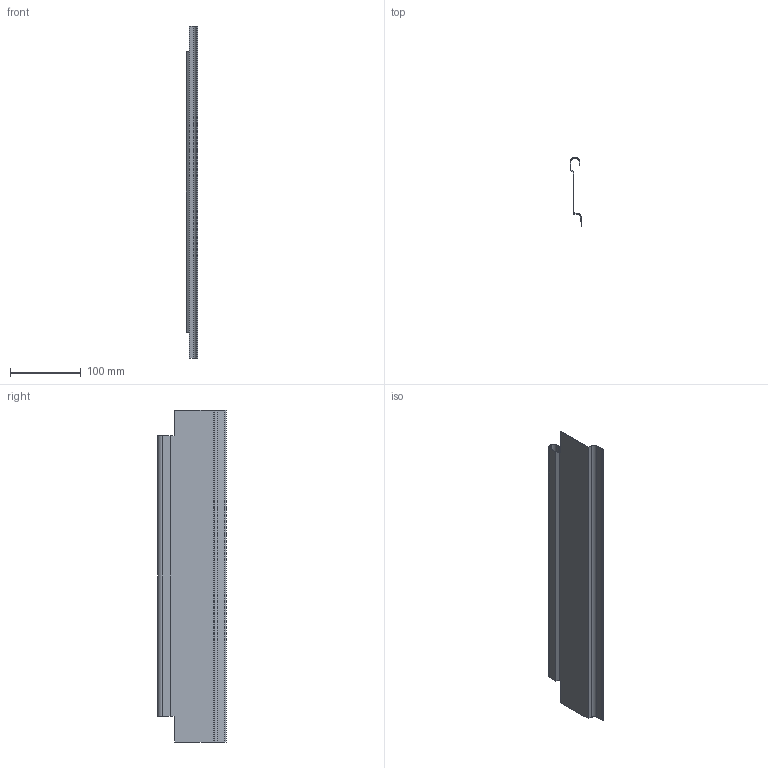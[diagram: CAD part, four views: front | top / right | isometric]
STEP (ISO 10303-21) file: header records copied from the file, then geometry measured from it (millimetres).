
FILE_DESCRIPTION (( 'STEP AP214' ), '1' );
FILE_NAME ('_Solowing NL500.step', '2010-07-14T13:31:57', ( 'grass' ), ( '' ), 'SwSTEP 2.0', 'SolidWorks 2010', '' );
FILE_SCHEMA (( 'AUTOMOTIVE_DESIGN' ));
Length unit declared in the file: millimetre
Products named in the file (1): _Solowing NL500
Bounding box: 16.3 x 96 x 468 mm (x, y, z)
Volume: 43811.4 mm3; surface area: 110475.4 mm2
Topology: 1 solids, 1 shells, 46 faces, 108 edges, 64 vertices
Faces by surface type: plane 36, cylinder 10
Entity records: 1314 total; most frequent: DIRECTION 222, CARTESIAN_POINT 219, ORIENTED_EDGE 216, EDGE_CURVE 108, LINE 88, VECTOR 88, AXIS2_PLACEMENT_3D 67, VERTEX_POINT 64
